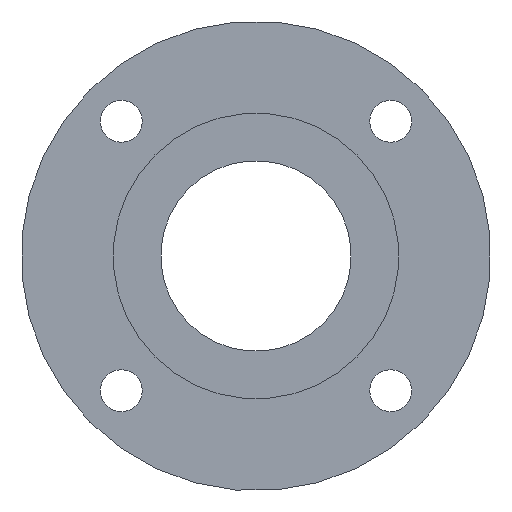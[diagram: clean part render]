
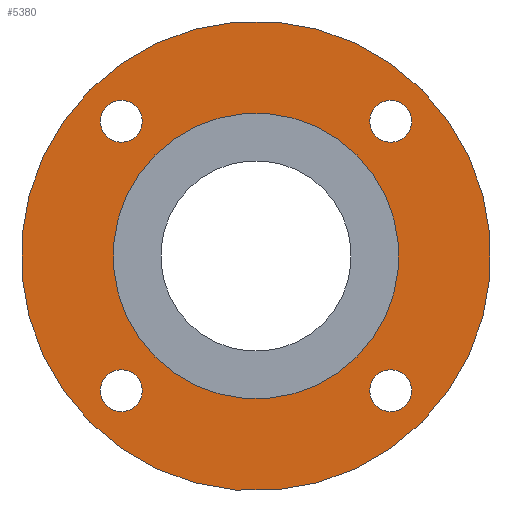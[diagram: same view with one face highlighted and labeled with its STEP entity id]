
A CAD part, left-side view. The second image highlights one B-rep face of the part: STEP entity #5380.
In plain terms, the highlighted planar face has unit normal (-1, 0, 0).
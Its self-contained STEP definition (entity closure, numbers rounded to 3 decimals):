
#111=CIRCLE('',#5723,22.5);
#113=CIRCLE('',#5728,37.);
#114=CIRCLE('',#5730,3.3);
#115=CIRCLE('',#5731,3.3);
#116=CIRCLE('',#5732,3.3);
#117=CIRCLE('',#5733,3.3);
#1632=ORIENTED_EDGE('',*,*,#3178,.T.);
#1633=ORIENTED_EDGE('',*,*,#3179,.T.);
#1634=ORIENTED_EDGE('',*,*,#3180,.T.);
#1635=ORIENTED_EDGE('',*,*,#3181,.T.);
#1636=ORIENTED_EDGE('',*,*,#3175,.F.);
#1637=ORIENTED_EDGE('',*,*,#3177,.F.);
#3175=EDGE_CURVE('',#3950,#3950,#111,.F.);
#3177=EDGE_CURVE('',#3952,#3952,#113,.T.);
#3178=EDGE_CURVE('',#3953,#3953,#114,.T.);
#3179=EDGE_CURVE('',#3954,#3954,#115,.T.);
#3180=EDGE_CURVE('',#3955,#3955,#116,.T.);
#3181=EDGE_CURVE('',#3956,#3956,#117,.T.);
#3950=VERTEX_POINT('',#8561);
#3952=VERTEX_POINT('',#8568);
#3953=VERTEX_POINT('',#8571);
#3954=VERTEX_POINT('',#8573);
#3955=VERTEX_POINT('',#8575);
#3956=VERTEX_POINT('',#8577);
#4406=EDGE_LOOP('',(#1632));
#4407=EDGE_LOOP('',(#1633));
#4408=EDGE_LOOP('',(#1634));
#4409=EDGE_LOOP('',(#1635));
#4410=EDGE_LOOP('',(#1636));
#4411=EDGE_LOOP('',(#1637));
#4797=FACE_BOUND('',#4406,.T.);
#4798=FACE_BOUND('',#4407,.T.);
#4799=FACE_BOUND('',#4408,.T.);
#4800=FACE_BOUND('',#4409,.T.);
#4801=FACE_BOUND('',#4410,.T.);
#4802=FACE_BOUND('',#4411,.T.);
#5135=PLANE('',#5729);
#5380=ADVANCED_FACE('',(#4797,#4798,#4799,#4800,#4801,#4802),#5135,.F.);
#5723=AXIS2_PLACEMENT_3D('',#8560,#6213,#6214);
#5728=AXIS2_PLACEMENT_3D('',#8567,#6223,#6224);
#5729=AXIS2_PLACEMENT_3D('',#8569,#6225,#6226);
#5730=AXIS2_PLACEMENT_3D('',#8570,#6227,#6228);
#5731=AXIS2_PLACEMENT_3D('',#8572,#6229,#6230);
#5732=AXIS2_PLACEMENT_3D('',#8574,#6231,#6232);
#5733=AXIS2_PLACEMENT_3D('',#8576,#6233,#6234);
#6213=DIRECTION('',(1.,0.,0.));
#6214=DIRECTION('',(0.,0.707,-0.707));
#6223=DIRECTION('',(1.,0.,0.));
#6224=DIRECTION('',(0.,0.707,-0.707));
#6225=DIRECTION('',(1.,0.,0.));
#6226=DIRECTION('',(0.,0.707,-0.707));
#6227=DIRECTION('',(1.,0.,0.));
#6228=DIRECTION('',(0.,0.707,-0.707));
#6229=DIRECTION('',(1.,0.,0.));
#6230=DIRECTION('',(0.,0.707,-0.707));
#6231=DIRECTION('',(1.,0.,0.));
#6232=DIRECTION('',(0.,0.707,-0.707));
#6233=DIRECTION('',(1.,0.,0.));
#6234=DIRECTION('',(0.,0.707,-0.707));
#8560=CARTESIAN_POINT('',(22.,0.,0.));
#8561=CARTESIAN_POINT('',(22.,15.91,-15.91));
#8567=CARTESIAN_POINT('',(22.,0.,0.));
#8568=CARTESIAN_POINT('',(22.,26.163,-26.163));
#8569=CARTESIAN_POINT('',(22.,0.,0.));
#8570=CARTESIAN_POINT('',(22.,21.213,-21.213));
#8571=CARTESIAN_POINT('',(22.,23.547,-23.547));
#8572=CARTESIAN_POINT('',(22.,-21.213,-21.213));
#8573=CARTESIAN_POINT('',(22.,-18.88,-23.547));
#8574=CARTESIAN_POINT('',(22.,-21.213,21.213));
#8575=CARTESIAN_POINT('',(22.,-18.88,18.88));
#8576=CARTESIAN_POINT('',(22.,21.213,21.213));
#8577=CARTESIAN_POINT('',(22.,23.547,18.88));
